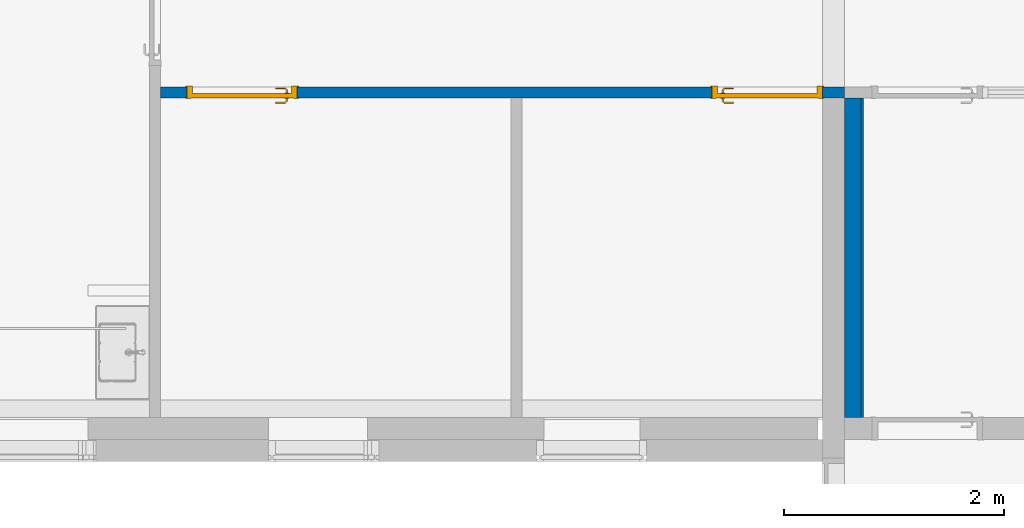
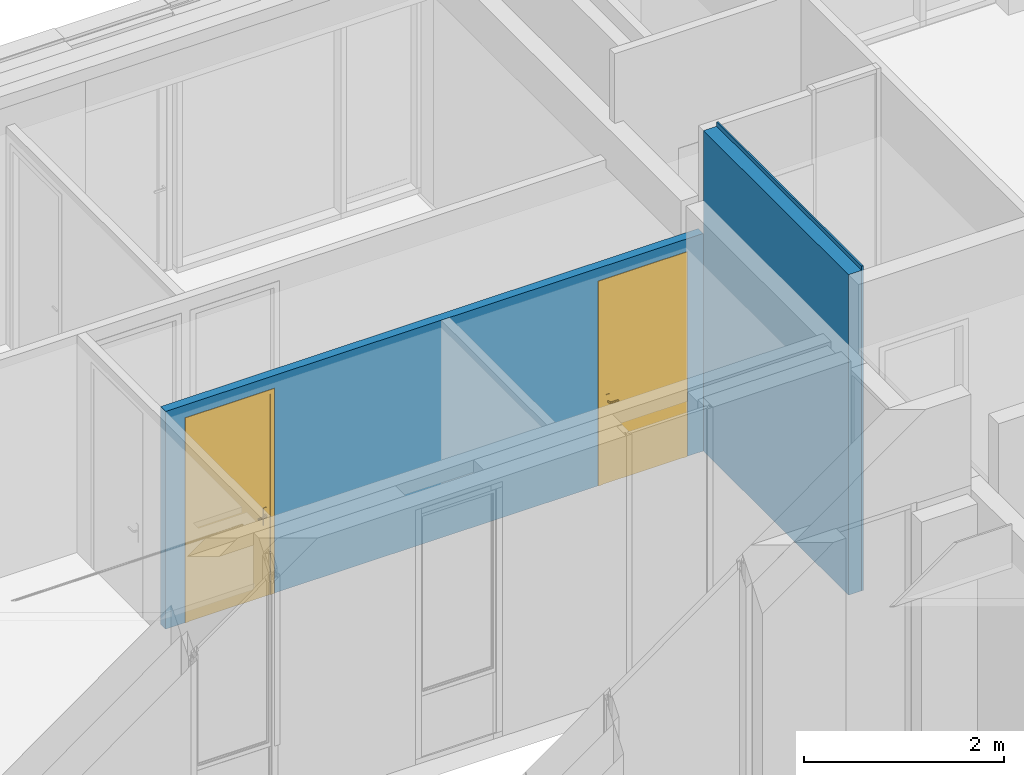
# One storey, part 135 of 240: 3 walls, 2 doors, 2 openings.
"""IFC2X3 building model written with IfcOpenShell, lengths in centimetres."""

from ifc_helpers import new_model, entity, si_unit, converted_unit, derived_unit, direction, frame, frame_2d, origin, place, context, subcontext, project, spatial, rectangle, extrude, faceted_brep, source, transform, mapped, material, material_list, layer, layer_set, layer_usage, type_object, type_shapes, element, fill, save


model = new_model("IFC2X3")

# Units and contexts
model_context = context("Model", 3, precision=0.001, world=origin(), true_north=direction((6.12303176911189e-17, 1.0)))
body_context = subcontext(model_context, "Body", "Model", "MODEL_VIEW")
ifc_project = project(units=[si_unit("LENGTHUNIT", "METRE", prefix="CENTI"), si_unit("AREAUNIT", "SQUARE_METRE"), si_unit("VOLUMEUNIT", "CUBIC_METRE"), converted_unit("PLANEANGLEUNIT", "DEGREE", entity("IfcRatioMeasure", 0.0174532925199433), si_unit("PLANEANGLEUNIT", "RADIAN"), dimensions=[0, 0, 0, 0, 0, 0, 0]), si_unit("MASSUNIT", "GRAM", prefix="KILO"), derived_unit("MASSDENSITYUNIT", [(si_unit("MASSUNIT", "GRAM", prefix="KILO"), 1), (si_unit("LENGTHUNIT", "METRE"), -3)]), si_unit("TIMEUNIT", "SECOND"), si_unit("FREQUENCYUNIT", "HERTZ"), si_unit("THERMODYNAMICTEMPERATUREUNIT", "DEGREE_CELSIUS"), derived_unit("THERMALTRANSMITTANCEUNIT", [(si_unit("MASSUNIT", "GRAM", prefix="KILO"), 1), (si_unit("THERMODYNAMICTEMPERATUREUNIT", "KELVIN"), -1), (si_unit("TIMEUNIT", "SECOND"), -3)]), derived_unit("VOLUMETRICFLOWRATEUNIT", [(si_unit("LENGTHUNIT", "METRE"), 3), (si_unit("TIMEUNIT", "SECOND"), -1)]), si_unit("ELECTRICCURRENTUNIT", "AMPERE"), si_unit("ELECTRICVOLTAGEUNIT", "VOLT"), si_unit("POWERUNIT", "WATT"), si_unit("FORCEUNIT", "NEWTON", prefix="KILO"), si_unit("ILLUMINANCEUNIT", "LUX"), si_unit("LUMINOUSFLUXUNIT", "LUMEN"), si_unit("LUMINOUSINTENSITYUNIT", "CANDELA"), derived_unit("USERDEFINED", [(si_unit("MASSUNIT", "GRAM", prefix="KILO"), -1), (si_unit("LENGTHUNIT", "METRE"), -2), (si_unit("TIMEUNIT", "SECOND"), 3), (si_unit("LUMINOUSFLUXUNIT", "LUMEN"), 1)]), derived_unit("LINEARVELOCITYUNIT", [(si_unit("LENGTHUNIT", "METRE"), 1), (si_unit("TIMEUNIT", "SECOND"), -1)]), si_unit("PRESSUREUNIT", "PASCAL"), derived_unit("USERDEFINED", [(si_unit("LENGTHUNIT", "METRE"), -2), (si_unit("MASSUNIT", "GRAM", prefix="KILO"), 1), (si_unit("TIMEUNIT", "SECOND"), -2)])], contexts=[model_context])

# Site, building, storey
site_placement = place(None, frame((-2781.94577612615, 7442.24238424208, 0.0)))
site = spatial("IfcSite", under=ifc_project, at=site_placement, Name="Default", CompositionType="ELEMENT")
building_placement = place(site_placement, origin())
building = spatial("IfcBuilding", under=site, at=building_placement, CompositionType="ELEMENT")
storey_placement = place(building_placement, origin())
storey = spatial("IfcBuildingStorey", under=building, at=storey_placement, Name="N00 - COO", CompositionType="ELEMENT", Elevation=0.0)

# Wall
ifc_material_1 = material(Name="00 - Isolant")
ifc_layer_1 = layer(ifc_material_1, 14.0)
ifc_material_2 = material(Name="01 - Enduit/Plâtre")
ifc_layer_2 = layer(ifc_material_2, 1.3)
ifc_layer_set_1 = layer_set([ifc_layer_1, ifc_layer_2], Name="Mur de base:04 - Parement -  isolant 14 cm + BA13")
ifc_layer_usage_1 = layer_usage(ifc_layer_set_1, "AXIS2", "POSITIVE", -7.65)
wall_type_1 = type_object("IfcWallType", Name="Mur de base:04 - Parement -  isolant 14 cm + BA13", PredefinedType="STANDARD", material=ifc_layer_set_1)
wall_1_placement = place(building_placement, frame((-8401.84987766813, -520.0, 0.0), z_axis=(0.0, 0.0, 1.0), x_axis=(0.0, -1.0, 0.0)))
element("IfcWallStandardCase", 1, at=wall_1_placement, inside=storey, type_object=wall_type_1, material=ifc_layer_usage_1, Name="Mur de base:04 - Parement -  isolant 14 cm + BA13", ObjectType="Mur de base:04 - Parement -  isolant 14 cm + BA13", context=body_context, shape_type="SweptSolid", body=[
    extrude(rectangle(XDim=290.048500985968, YDim=15.3000000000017, at=frame_2d((145.024250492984, 0.0), x_axis=(-1.0, 0.0))), origin(), (0.0, 0.0, 1.0), 391.0),
])

# Wall, openings, doors
ifc_layer_3 = layer(ifc_material_2, 1.3)
ifc_layer_4 = layer(ifc_material_1, 7.4)
ifc_layer_5 = layer(ifc_material_2, 1.3)
ifc_layer_set_2 = layer_set([ifc_layer_3, ifc_layer_4, ifc_layer_5], Name="Mur de base:06 - cloisons - Ba13 10cm")
ifc_layer_usage_2 = layer_usage(ifc_layer_set_2, "AXIS2", "NEGATIVE", 5.0)
wall_type_2 = type_object("IfcWallType", Name="Mur de base:06 - cloisons - Ba13 10cm", PredefinedType="STANDARD", material=ifc_layer_set_2)
wall_2_placement = place(building_placement, frame((-8409.49987766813, -515.0, 0.0), z_axis=(0.0, 0.0, 1.0), x_axis=(-1.0, 0.0, 0.0)))
wall_2 = element("IfcWallStandardCase", 2, at=wall_2_placement, inside=storey, type_object=wall_type_2, material=ifc_layer_usage_2, Name="Mur de base:06 - cloisons - Ba13 10cm", ObjectType="Mur de base:06 - cloisons - Ba13 10cm", context=body_context, shape_type="SweptSolid", body=[
    extrude(rectangle(XDim=620.499999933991, YDim=10.0000000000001, at=frame_2d((310.249999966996, -3.33066907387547e-14), x_axis=(-1.0, 0.0))), origin(), (0.0, 0.0, 1.0), 265.5),
])
opening_1_placement = place(wall_2_placement, frame((496.499999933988, -5.0, 0.0)))
opening_1 = element("IfcOpeningElement", 3, at=opening_1_placement, cuts=wall_2, Name="Int. Simple:PP simple (0.93m x 2.50m):1", ObjectType="Opening", context=body_context, shape_type="SweptSolid", body=[
    extrude(rectangle(XDim=248.500000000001, YDim=99.9999999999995, at=frame_2d((124.250000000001, 49.9999999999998), x_axis=(1.0, 0.0))), frame((0.0, 0.0, 0.0), z_axis=(0.0, 1.0, 0.0), x_axis=(0.0, 0.0, 1.0)), (0.0, 0.0, 1.0), 10.0),
])
opening_2_placement = place(wall_2_placement, frame((20.0, -5.0, 0.0)))
opening_2 = element("IfcOpeningElement", 4, at=opening_2_placement, cuts=wall_2, Name="Int. Simple:PP simple (0.93m x 2.50m):1", ObjectType="Opening", context=body_context, shape_type="SweptSolid", body=[
    extrude(rectangle(XDim=248.500000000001, YDim=99.9999999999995, at=frame_2d((124.250000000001, 50.0), x_axis=(1.0, 0.0))), frame((0.0, 0.0, 0.0), z_axis=(0.0, 1.0, 0.0), x_axis=(0.0, 0.0, 1.0)), (0.0, 0.0, 1.0), 10.0),
])
ifc_material_3 = material(Name="Finition Peinture - Blanc satiné")
ifc_material_4 = material(Name="Bois - Panneau de porte")
ifc_material_5 = material(Name="Bois - Cadre de porte")
ifc_material_list_1 = material_list([ifc_material_3, ifc_material_4, ifc_material_5])
ifc_material_list_2 = material_list([ifc_material_3, ifc_material_4, ifc_material_5])
door_style_1 = type_object("IfcDoorStyle", Name="PP simple (0.93m x 2.50m)", ConstructionType="NOTDEFINED", OperationType="SINGLE_SWING_LEFT", ParameterTakesPrecedence=False, Sizeable=False, material=ifc_material_list_2)
shared_shape_1 = source(origin(), body_context, "Body", "Brep", [
    faceted_brep([(10.5352761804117, -0.500000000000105, 86.6003983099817), (11.5000000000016, -0.500000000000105, 87.0), (11.5000000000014, -0.500000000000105, 108.0), (10.5352761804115, -0.500000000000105, 108.399601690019), (9.50000000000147, -0.500000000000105, 108.535898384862), (8.46472381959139, -0.500000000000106, 108.399601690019), (7.50000000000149, -0.500000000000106, 108.0), (7.50000000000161, -0.500000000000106, 87.0), (8.46472381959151, -0.500000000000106, 86.6003983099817), (9.50000000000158, -0.500000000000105, 86.464101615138), (10.5352761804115, 0.0, 108.399601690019), (11.5000000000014, 0.0, 108.0), (11.5000000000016, 0.0, 87.0), (10.5352761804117, 0.0, 86.6003983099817), (9.50000000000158, 0.0, 86.464101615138), (8.46472381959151, 0.0, 86.6003983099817), (7.50000000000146, 0.0, 87.0), (7.50000000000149, 0.0, 108.0), (8.46472381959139, 0.0, 108.399601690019), (9.50000000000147, 0.0, 108.535898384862)], [[[0, 1, 2, 3, 4, 5, 6, 7, 8, 9]], [[10, 11, 12, 13, 14, 15, 16, 17, 18, 19]], [[16, 15, 8, 7]], [[8, 15, 14, 9]], [[14, 13, 0, 9]], [[13, 12, 1, 0]], [[2, 1, 12, 11]], [[11, 10, 3, 2]], [[3, 10, 19, 4]], [[19, 18, 5, 4]], [[18, 17, 6, 5]], [[7, 6, 17, 16]]]),
    faceted_brep([(10.5352761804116, 4.0, 86.6003983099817), (11.5000000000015, 4.0, 87.0), (11.5000000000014, 4.0, 108.0), (10.5352761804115, 4.0, 108.399601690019), (9.50000000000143, 4.0, 108.535898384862), (8.46472381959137, 4.0, 108.399601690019), (7.50000000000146, 4.0, 108.0), (7.50000000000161, 4.0, 87.0), (8.46472381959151, 4.0, 86.6003983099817), (9.50000000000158, 4.0, 86.464101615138), (10.5352761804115, 4.49999999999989, 108.399601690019), (11.5000000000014, 4.49999999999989, 108.0), (11.5000000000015, 4.49999999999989, 87.0), (10.5352761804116, 4.49999999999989, 86.6003983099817), (9.50000000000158, 4.49999999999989, 86.464101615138), (8.46472381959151, 4.49999999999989, 86.6003983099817), (7.50000000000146, 4.49999999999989, 87.0), (7.50000000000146, 4.49999999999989, 108.0), (8.46472381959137, 4.49999999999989, 108.399601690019), (9.50000000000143, 4.49999999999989, 108.535898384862)], [[[0, 1, 2, 3, 4, 5, 6, 7, 8, 9]], [[10, 11, 12, 13, 14, 15, 16, 17, 18, 19]], [[11, 10, 3, 2]], [[3, 10, 19, 4]], [[19, 18, 5, 4]], [[18, 17, 6, 5]], [[7, 6, 17, 16]], [[16, 15, 8, 7]], [[8, 15, 14, 9]], [[14, 13, 0, 9]], [[13, 12, 1, 0]], [[2, 1, 12, 11]]]),
    faceted_brep([(9.29747013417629, -0.500000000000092, 100.778044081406), (9.70252986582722, -0.50000000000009, 100.778044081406), (10.1000000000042, -0.500000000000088, 100.699999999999), (10.1000000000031, -0.500000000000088, 99.3000000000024), (9.7025298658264, -0.50000000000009, 99.2219559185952), (9.29747013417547, -0.500000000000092, 99.221955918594), (8.8999999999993, -0.500000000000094, 99.2999999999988), (8.89999999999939, -0.500000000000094, 100.7), (8.89999999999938, -3.26509507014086, 100.7), (9.29747013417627, -3.10045754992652, 100.778044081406), (10.9023585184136, -4.70534593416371, 100.778044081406), (11.0701397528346, -4.30028620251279, 100.778044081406), (9.7025298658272, -2.93267631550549, 100.778044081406), (10.1000000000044, -2.76803879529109, 100.7), (10.1000000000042, -2.76803879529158, 99.3000000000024), (9.7025298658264, -2.93267631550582, 99.2219559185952), (11.0701397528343, -4.30028620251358, 99.2219559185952), (10.9023585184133, -4.70534593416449, 99.221955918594), (9.29747013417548, -3.10045754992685, 99.221955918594), (8.89999999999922, -3.26509507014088, 99.2999999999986), (10.7377209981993, -5.10281606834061, 100.7), (11.2347772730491, -3.90281606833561, 100.7), (11.2347772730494, -3.90281606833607, 99.3000000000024), (10.7377209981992, -5.10281606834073, 99.2999999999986), (19.5018640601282, -5.10281606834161, 99.2999999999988), (19.5018640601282, -4.70534593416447, 99.221955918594), (19.5018640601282, -4.30028620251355, 99.2219559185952), (19.5018640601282, -3.9028160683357, 99.3000000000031), (19.5018640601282, -3.90281606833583, 100.7), (19.5018640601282, -4.30028620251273, 100.778044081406), (19.5018640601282, -4.70534593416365, 100.778044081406), (19.5018640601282, -5.10281606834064, 100.699999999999), (14.7307697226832, -5.10281606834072, 100.7), (15.2860019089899, -4.5028160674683, 100.78786867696), (15.3683206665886, -3.9028160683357, 100.7), (15.3683206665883, -3.9028160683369, 99.3000000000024), (15.2860018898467, -4.50281607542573, 99.2121313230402), (14.7307700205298, -5.10281606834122, 99.2999999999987)], [[[0, 1, 2, 3, 4, 5, 6, 7]], [[8, 9, 0, 7]], [[9, 10, 11, 12, 1, 0]], [[12, 13, 2, 1]], [[3, 2, 13, 14]], [[14, 15, 4, 3]], [[15, 16, 17, 18, 5, 4]], [[18, 19, 6, 5]], [[7, 6, 19, 8]], [[20, 10, 9, 8]], [[11, 21, 13, 12]], [[14, 13, 21, 22]], [[22, 16, 15, 14]], [[17, 23, 19, 18]], [[8, 19, 23, 20]], [[24, 25, 26, 27, 28, 29, 30, 31]], [[32, 30, 33]], [[31, 30, 32]], [[10, 20, 32]], [[33, 34, 11]], [[21, 11, 34]], [[34, 29, 28]], [[30, 29, 33]], [[29, 34, 33]], [[10, 32, 33]], [[10, 33, 11]], [[22, 21, 34, 28, 27, 35]], [[35, 26, 36]], [[37, 36, 25]], [[22, 35, 16]], [[35, 27, 26]], [[24, 37, 25]], [[23, 17, 37]], [[37, 17, 36]], [[17, 16, 36]], [[16, 35, 36]], [[25, 36, 26]], [[20, 23, 37, 24, 31, 32]]]),
    faceted_brep([(9.29747013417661, 4.49999999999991, 100.778044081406), (8.89999999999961, 4.4999999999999, 100.7), (8.89999999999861, 4.4999999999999, 99.2999999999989), (9.29747013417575, 4.49999999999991, 99.221955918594), (9.70252986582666, 4.49999999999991, 99.2219559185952), (10.1000000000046, 4.49999999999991, 99.3000000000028), (10.1000000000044, 4.49999999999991, 100.7), (9.70252986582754, 4.49999999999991, 100.778044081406), (10.1000000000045, 6.7485204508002, 99.3000000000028), (10.1000000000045, 6.74852045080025, 100.7), (9.70252986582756, 6.91315797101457, 100.778044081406), (11.083890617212, 8.29451872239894, 100.778044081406), (10.916109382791, 8.69957845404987, 100.778044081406), (9.29747013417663, 7.0809392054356, 100.778044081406), (8.89999999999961, 7.24557672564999, 100.7), (8.89999999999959, 7.2455767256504, 99.2999999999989), (9.29747013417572, 7.08093920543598, 99.221955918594), (10.9161093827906, 8.69957845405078, 99.221955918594), (11.0838906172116, 8.29451872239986, 99.2219559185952), (9.70252986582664, 6.91315797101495, 99.2219559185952), (11.2485281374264, 7.89704858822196, 99.3000000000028), (11.2485281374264, 7.89704858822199, 100.7), (10.7514718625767, 9.09704858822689, 100.7), (10.7514718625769, 9.0970485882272, 99.2999999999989), (19.5045783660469, 7.89704858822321, 99.3000000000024), (19.5045783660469, 8.29451872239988, 99.2219559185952), (19.5045783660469, 8.6995784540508, 99.221955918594), (19.5045783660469, 9.09704858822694, 99.2999999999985), (19.5045783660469, 9.09704858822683, 100.7), (19.5045783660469, 8.69957845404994, 100.778044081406), (19.5045783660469, 8.29451872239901, 100.778044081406), (19.5045783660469, 7.89704858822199, 100.7), (15.3765520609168, 7.89704858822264, 99.3000000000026), (15.3765532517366, 7.89704858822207, 100.7), (15.294234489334, 8.49704858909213, 100.78786867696), (14.7445205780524, 9.09704858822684, 100.7), (14.7445204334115, 9.09704858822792, 99.2999999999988), (15.2942345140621, 8.49704858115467, 99.2121313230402)], [[[0, 1, 2, 3, 4, 5, 6, 7]], [[6, 5, 8, 9]], [[9, 10, 7, 6]], [[10, 11, 12, 13, 0, 7]], [[13, 14, 1, 0]], [[2, 1, 14, 15]], [[15, 16, 3, 2]], [[16, 17, 18, 19, 4, 3]], [[19, 8, 5, 4]], [[9, 8, 20, 21]], [[21, 11, 10, 9]], [[12, 22, 14, 13]], [[15, 14, 22, 23]], [[23, 17, 16, 15]], [[18, 20, 8, 19]], [[24, 25, 26, 27, 28, 29, 30, 31]], [[21, 20, 32, 24, 31, 33]], [[33, 30, 34]], [[35, 34, 29]], [[21, 33, 11]], [[33, 31, 30]], [[28, 35, 29]], [[22, 12, 35]], [[35, 12, 34]], [[12, 11, 34]], [[11, 33, 34]], [[29, 34, 30]], [[22, 35, 28, 27, 36, 23]], [[36, 26, 37]], [[27, 26, 36]], [[17, 23, 36]], [[37, 32, 18]], [[20, 18, 32]], [[32, 25, 24]], [[26, 25, 37]], [[25, 32, 37]], [[17, 36, 37]], [[17, 37, 18]]]),
    faceted_brep([(3.50000000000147, 4.0, 245.0), (96.5000000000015, 4.0, 245.0), (96.5000000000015, 4.0, 0.0), (3.50000000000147, 4.0, 0.0), (3.50000000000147, 0.0, 245.0), (3.50000000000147, 0.0, 0.0), (96.5000000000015, 0.0, 0.0), (96.5000000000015, 0.0, 245.0)], [[[0, 1, 2, 3]], [[4, 5, 6, 7]], [[1, 0, 4, 7]], [[2, 1, 7, 6]], [[3, 2, 6, 5]], [[0, 3, 5, 4]]]),
    faceted_brep([(0.0, 10.0, 0.0), (-1.50000000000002, 10.0, 0.0), (-1.50000000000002, 10.5000000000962, 0.0), (5.0, 10.5000000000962, 0.0), (5.0, 4.0, 0.0), (3.50000000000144, 4.0, 0.0), (3.50000000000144, -0.500000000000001, 0.0), (-1.50000000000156, -0.500000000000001, 0.0), (-1.50000000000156, 0.0, 0.0), (0.0, 0.0, 0.0), (0.0, 0.0, 248.500000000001), (0.0, 10.0, 248.500000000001), (100.0, 10.0, 248.500000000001), (100.0, 10.0, 0.0), (101.5, 10.0, 0.0), (101.5, 10.0, 250.0), (-1.50000000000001, 10.0, 250.0), (5.0, 10.5000000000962, 243.5), (5.0, 4.0, 243.5), (95.0, 4.0, 243.5), (95.0, 4.0, 0.0), (96.499999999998, 4.0, 0.0), (96.499999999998, 4.0, 245.0), (3.50000000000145, 4.0, 245.0), (100.0, 0.0, 248.500000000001), (100.0, 0.0, 0.0), (101.500000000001, 0.0, 0.0), (101.500000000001, -0.500000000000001, 0.0), (96.499999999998, -0.500000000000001, 0.0), (95.0, 10.5000000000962, 0.0), (101.5, 10.5000000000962, 0.0), (95.0, 10.5000000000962, 243.5), (3.50000000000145, -0.500000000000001, 245.0), (96.499999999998, -0.500000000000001, 245.0), (101.500000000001, -0.500000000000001, 250.0), (-1.50000000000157, -0.500000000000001, 250.0), (-1.50000000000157, 0.0, 250.0), (101.500000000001, 0.0, 250.0), (-1.50000000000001, 10.5000000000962, 250.0), (101.5, 10.5000000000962, 250.0)], [[[0, 1, 2, 3, 4, 5, 6, 7, 8, 9]], [[0, 9, 10, 11]], [[1, 0, 11, 12, 13, 14, 15, 16]], [[3, 17, 18, 4]], [[5, 4, 18, 19, 20, 21, 22, 23]], [[12, 24, 25, 13]], [[13, 25, 26, 27, 28, 21, 20, 29, 30, 14]], [[19, 31, 29, 20]], [[11, 10, 24, 12]], [[18, 17, 31, 19]], [[5, 23, 32, 6]], [[7, 6, 32, 33, 28, 27, 34, 35]], [[8, 7, 35, 36]], [[9, 8, 36, 37, 26, 25, 24, 10]], [[2, 1, 16, 38]], [[3, 2, 38, 39, 30, 29, 31, 17]], [[33, 22, 21, 28]], [[37, 34, 27, 26]], [[39, 15, 14, 30]], [[32, 23, 22, 33]], [[36, 35, 34, 37]], [[38, 16, 15, 39]]]),
])
type_shapes(door_style_1, [shared_shape_1])
door_1_placement = place(opening_2_placement, frame((100.0, 10.0, 0.0), z_axis=(0.0, 0.0, 1.0), x_axis=(-1.0, 0.0, 0.0)))
door_1 = element("IfcDoor", 5, at=door_1_placement, inside=storey, type_object=door_style_1, material=ifc_material_list_1, Name="Int. Simple:PP simple (0.93m x 2.50m)", ObjectType="Int. Simple:PP simple (0.93m x 2.50m)", OverallHeight=248.500000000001, OverallWidth=99.9999999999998, context=body_context, shape_type="MappedRepresentation", body=[
    mapped(shared_shape_1, transform((0.0, 0.0, 0.0), scale=1.0)),
])
fill(opening_2, door_1)
ifc_material_list_3 = material_list([ifc_material_3, ifc_material_4, ifc_material_5])
ifc_material_list_4 = material_list([ifc_material_3, ifc_material_4, ifc_material_5])
door_style_2 = type_object("IfcDoorStyle", Name="PP simple (0.93m x 2.50m)", ConstructionType="NOTDEFINED", OperationType="SINGLE_SWING_RIGHT", ParameterTakesPrecedence=False, Sizeable=False, material=ifc_material_list_4)
shared_shape_2 = source(origin(), body_context, "Body", "Brep", [
    faceted_brep([(99.5000000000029, -0.500000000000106, 87.0), (99.5000000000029, -0.500000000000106, 108.0), (98.535276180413, -0.500000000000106, 108.399601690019), (97.5000000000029, -0.500000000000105, 108.535898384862), (96.4647238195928, -0.500000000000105, 108.399601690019), (95.500000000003, -0.500000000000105, 108.0), (95.5000000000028, -0.500000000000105, 87.0), (96.4647238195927, -0.500000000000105, 86.6003983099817), (97.5000000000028, -0.500000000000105, 86.464101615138), (98.5352761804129, -0.500000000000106, 86.6003983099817), (99.5000000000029, 0.0, 108.0), (99.5000000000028, 0.0, 87.0), (98.5352761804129, 0.0, 86.6003983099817), (97.5000000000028, 0.0, 86.464101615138), (96.4647238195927, 0.0, 86.6003983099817), (95.5000000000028, 0.0, 87.0), (95.5000000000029, 0.0, 108.0), (96.4647238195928, 0.0, 108.399601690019), (97.5000000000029, 0.0, 108.535898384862), (98.535276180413, 0.0, 108.399601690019)], [[[0, 1, 2, 3, 4, 5, 6, 7, 8, 9]], [[10, 11, 12, 13, 14, 15, 16, 17, 18, 19]], [[9, 12, 11, 0]], [[8, 13, 12, 9]], [[7, 14, 13, 8]], [[7, 6, 15, 14]], [[15, 6, 5, 16]], [[4, 17, 16, 5]], [[3, 18, 17, 4]], [[2, 19, 18, 3]], [[2, 1, 10, 19]], [[11, 10, 1, 0]]]),
    faceted_brep([(99.5000000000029, 4.0, 87.0), (99.5000000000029, 4.0, 108.0), (98.535276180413, 4.0, 108.399601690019), (97.5000000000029, 4.0, 108.535898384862), (96.4647238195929, 4.0, 108.399601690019), (95.500000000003, 4.0, 108.0), (95.5000000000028, 4.0, 87.0), (96.4647238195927, 4.0, 86.6003983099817), (97.5000000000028, 4.0, 86.464101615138), (98.5352761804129, 4.0, 86.6003983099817), (97.5000000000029, 4.49999999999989, 108.535898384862), (98.535276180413, 4.49999999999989, 108.399601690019), (99.5000000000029, 4.49999999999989, 108.0), (99.5000000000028, 4.49999999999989, 87.0), (98.5352761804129, 4.49999999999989, 86.6003983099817), (97.5000000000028, 4.49999999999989, 86.464101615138), (96.4647238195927, 4.49999999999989, 86.6003983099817), (95.5000000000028, 4.49999999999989, 87.0), (95.500000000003, 4.49999999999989, 108.0), (96.4647238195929, 4.49999999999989, 108.399601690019)], [[[0, 1, 2, 3, 4, 5, 6, 7, 8, 9]], [[10, 11, 12, 13, 14, 15, 16, 17, 18, 19]], [[4, 19, 18, 5]], [[3, 10, 19, 4]], [[2, 11, 10, 3]], [[2, 1, 12, 11]], [[13, 12, 1, 0]], [[9, 14, 13, 0]], [[8, 15, 14, 9]], [[7, 16, 15, 8]], [[7, 6, 17, 16]], [[17, 6, 5, 18]]]),
    faceted_brep([(97.2974701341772, -0.50000000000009, 100.778044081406), (97.7025298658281, -0.500000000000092, 100.778044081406), (98.1000000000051, -0.500000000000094, 100.699999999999), (98.100000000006, -0.500000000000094, 99.2999999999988), (97.7025298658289, -0.500000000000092, 99.221955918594), (97.297470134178, -0.50000000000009, 99.2219559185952), (96.9000000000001, -0.500000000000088, 99.3000000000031), (96.9000000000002, -0.500000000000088, 100.7), (97.7025298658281, -3.10045754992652, 100.778044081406), (98.1000000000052, -3.26509507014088, 100.7), (97.2974701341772, -2.93267631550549, 100.778044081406), (95.9298602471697, -4.30028620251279, 100.778044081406), (96.0976414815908, -4.70534593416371, 100.778044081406), (96.9000000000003, -2.76803879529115, 100.7), (96.9000000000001, -2.76803879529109, 99.3000000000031), (97.297470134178, -2.93267631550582, 99.2219559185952), (97.7025298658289, -3.10045754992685, 99.221955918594), (96.0976414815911, -4.70534593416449, 99.221955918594), (95.9298602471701, -4.30028620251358, 99.2219559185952), (98.100000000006, -3.26509507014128, 99.2999999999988), (96.2622790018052, -5.10281606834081, 100.7), (95.7652227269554, -3.90281606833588, 100.7), (95.7652227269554, -3.90281606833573, 99.3000000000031), (96.2622790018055, -5.10281606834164, 99.2999999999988), (87.4981359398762, -5.10281606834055, 100.7), (87.4981359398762, -4.70534593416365, 100.778044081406), (87.4981359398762, -4.30028620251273, 100.778044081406), (87.4981359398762, -3.90281606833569, 100.699999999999), (87.4981359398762, -3.90281606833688, 99.3000000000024), (87.4981359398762, -4.30028620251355, 99.2219559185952), (87.4981359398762, -4.70534593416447, 99.221955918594), (87.4981359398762, -5.10281606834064, 99.2999999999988), (91.7139980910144, -4.5028160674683, 100.78786867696), (92.2692302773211, -5.1028160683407, 100.7), (91.6316793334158, -3.9028160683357, 100.7), (91.631679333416, -3.9028160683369, 99.3000000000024), (91.7139981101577, -4.50281607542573, 99.2121313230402), (92.2692310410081, -5.10281606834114, 99.2999999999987)], [[[0, 1, 2, 3, 4, 5, 6, 7]], [[2, 1, 8, 9]], [[1, 0, 10, 11, 12, 8]], [[0, 7, 13, 10]], [[14, 13, 7, 6]], [[5, 15, 14, 6]], [[5, 4, 16, 17, 18, 15]], [[3, 19, 16, 4]], [[9, 19, 3, 2]], [[9, 8, 12, 20]], [[10, 13, 21, 11]], [[22, 21, 13, 14]], [[14, 15, 18, 22]], [[16, 19, 23, 17]], [[20, 23, 19, 9]], [[24, 25, 26, 27, 28, 29, 30, 31]], [[32, 25, 33]], [[33, 25, 24]], [[33, 20, 12]], [[11, 34, 32]], [[34, 11, 21]], [[27, 26, 34]], [[32, 26, 25]], [[32, 34, 26]], [[32, 33, 12]], [[11, 32, 12]], [[21, 22, 35, 28, 27, 34]], [[36, 29, 35]], [[30, 36, 37]], [[18, 35, 22]], [[29, 28, 35]], [[30, 37, 31]], [[37, 17, 23]], [[36, 17, 37]], [[36, 18, 17]], [[36, 35, 18]], [[29, 36, 30]], [[23, 20, 33, 24, 31, 37]]]),
    faceted_brep([(97.2974701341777, 4.49999999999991, 99.2219559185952), (97.7025298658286, 4.49999999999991, 99.221955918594), (98.1000000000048, 4.4999999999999, 99.2999999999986), (98.1000000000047, 4.4999999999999, 100.7), (97.7025298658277, 4.49999999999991, 100.778044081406), (97.2974701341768, 4.49999999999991, 100.778044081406), (96.8999999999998, 4.49999999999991, 100.7), (96.900000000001, 4.49999999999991, 99.3000000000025), (96.8999999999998, 6.7485204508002, 100.7), (96.8999999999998, 6.74852045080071, 99.3000000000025), (97.2974701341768, 6.91315797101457, 100.778044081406), (97.7025298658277, 7.0809392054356, 100.778044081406), (96.0838906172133, 8.69957845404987, 100.778044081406), (95.9161093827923, 8.29451872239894, 100.778044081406), (98.1000000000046, 7.24557672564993, 100.7), (98.1000000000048, 7.24557672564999, 99.2999999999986), (97.7025298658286, 7.08093920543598, 99.221955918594), (97.2974701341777, 6.91315797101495, 99.2219559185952), (95.9161093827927, 8.29451872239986, 99.2219559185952), (96.0838906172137, 8.69957845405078, 99.221955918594), (95.751471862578, 7.89704858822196, 100.7), (95.7514718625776, 7.89704858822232, 99.3000000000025), (96.2485281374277, 9.09704858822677, 100.7), (96.2485281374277, 9.09704858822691, 99.2999999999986), (87.4954216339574, 8.29451872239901, 100.778044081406), (87.4954216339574, 8.69957845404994, 100.778044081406), (87.4954216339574, 9.09704858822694, 100.7), (87.4954216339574, 9.09704858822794, 99.2999999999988), (87.4954216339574, 8.6995784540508, 99.221955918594), (87.4954216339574, 8.29451872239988, 99.2219559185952), (87.4954216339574, 7.89704858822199, 99.3000000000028), (87.4954216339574, 7.89704858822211, 100.7), (91.6234467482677, 7.89704858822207, 100.7), (91.6234479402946, 7.89704858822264, 99.3000000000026), (91.7057655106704, 8.49704858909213, 100.78786867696), (92.255479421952, 9.09704858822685, 100.7), (92.2554795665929, 9.09704858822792, 99.2999999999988), (91.7057654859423, 8.49704858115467, 99.2121313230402)], [[[0, 1, 2, 3, 4, 5, 6, 7]], [[8, 9, 7, 6]], [[5, 10, 8, 6]], [[5, 4, 11, 12, 13, 10]], [[3, 14, 11, 4]], [[14, 3, 2, 15]], [[2, 1, 16, 15]], [[1, 0, 17, 18, 19, 16]], [[0, 7, 9, 17]], [[20, 21, 9, 8]], [[8, 10, 13, 20]], [[14, 22, 12, 11]], [[23, 22, 14, 15]], [[15, 16, 19, 23]], [[17, 9, 21, 18]], [[24, 25, 26, 27, 28, 29, 30, 31]], [[21, 20, 32, 31, 30, 33]], [[34, 24, 32]], [[25, 34, 35]], [[13, 32, 20]], [[24, 31, 32]], [[25, 35, 26]], [[35, 12, 22]], [[34, 12, 35]], [[34, 13, 12]], [[34, 32, 13]], [[24, 34, 25]], [[22, 23, 36, 27, 26, 35]], [[37, 28, 36]], [[36, 28, 27]], [[36, 23, 19]], [[18, 33, 37]], [[33, 18, 21]], [[30, 29, 33]], [[37, 29, 28]], [[37, 33, 29]], [[37, 36, 19]], [[18, 37, 19]]]),
    faceted_brep([(103.500000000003, 4.0, 245.0), (103.500000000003, 4.0, 0.0), (10.5000000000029, 4.0, 0.0), (10.5000000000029, 4.0, 245.0), (103.500000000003, 0.0, 245.0), (10.5000000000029, 0.0, 245.0), (10.5000000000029, 0.0, 0.0), (103.500000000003, 0.0, 0.0)], [[[0, 1, 2, 3]], [[4, 5, 6, 7]], [[3, 5, 4, 0]], [[2, 6, 5, 3]], [[1, 7, 6, 2]], [[0, 4, 7, 1]]]),
    faceted_brep([(107.0, 10.0, 0.0), (107.0, 0.0, 0.0), (108.500000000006, 0.0, 0.0), (108.500000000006, -0.500000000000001, 0.0), (103.500000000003, -0.500000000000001, 0.0), (103.500000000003, 4.0, 0.0), (102.0, 4.0, 0.0), (102.0, 10.5000000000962, 0.0), (108.500000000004, 10.5000000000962, 0.0), (108.500000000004, 10.0, 0.0), (107.0, 10.0, 248.500000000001), (107.0, 0.0, 248.500000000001), (108.500000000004, 10.0, 250.0), (5.50000000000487, 10.0, 250.0), (5.50000000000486, 10.0, 0.0), (7.0, 10.0, 0.0), (7.0, 10.0, 248.500000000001), (102.0, 4.0, 243.5), (102.0, 10.5000000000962, 243.5), (103.500000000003, 4.0, 245.0), (10.5000000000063, 4.0, 245.0), (10.5000000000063, 4.0, 0.0), (12.0, 4.0, 0.0), (12.0, 4.0, 243.5), (7.0, 0.0, 0.0), (7.0, 0.0, 248.500000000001), (5.50000000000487, 10.5000000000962, 0.0), (12.0, 10.5000000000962, 0.0), (10.5000000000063, -0.500000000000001, 0.0), (5.5000000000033, -0.500000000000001, 0.0), (5.5000000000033, 0.0, 0.0), (12.0, 10.5000000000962, 243.5), (103.500000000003, -0.500000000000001, 245.0), (108.500000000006, -0.500000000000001, 250.0), (5.5000000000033, -0.500000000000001, 250.0), (10.5000000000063, -0.500000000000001, 245.0), (108.500000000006, 0.0, 250.0), (5.50000000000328, 0.0, 250.0), (108.500000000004, 10.5000000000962, 250.0), (5.50000000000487, 10.5000000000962, 250.0)], [[[0, 1, 2, 3, 4, 5, 6, 7, 8, 9]], [[0, 10, 11, 1]], [[9, 12, 13, 14, 15, 16, 10, 0]], [[7, 6, 17, 18]], [[5, 19, 20, 21, 22, 23, 17, 6]], [[16, 15, 24, 25]], [[15, 14, 26, 27, 22, 21, 28, 29, 30, 24]], [[23, 22, 27, 31]], [[10, 16, 25, 11]], [[17, 23, 31, 18]], [[5, 4, 32, 19]], [[3, 33, 34, 29, 28, 35, 32, 4]], [[2, 36, 33, 3]], [[1, 11, 25, 24, 30, 37, 36, 2]], [[8, 38, 12, 9]], [[7, 18, 31, 27, 26, 39, 38, 8]], [[35, 28, 21, 20]], [[37, 30, 29, 34]], [[39, 26, 14, 13]], [[32, 35, 20, 19]], [[36, 37, 34, 33]], [[38, 39, 13, 12]]]),
])
type_shapes(door_style_2, [shared_shape_2])
door_2_placement = place(opening_1_placement, frame((107.0, 10.0, 0.0), z_axis=(0.0, 0.0, 1.0), x_axis=(-1.0, 0.0, 0.0)))
door_2 = element("IfcDoor", 6, at=door_2_placement, inside=storey, type_object=door_style_2, material=ifc_material_list_3, Name="Int. Simple:PP simple (0.93m x 2.50m)", ObjectType="Int. Simple:PP simple (0.93m x 2.50m)", OverallHeight=248.500000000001, OverallWidth=99.9999999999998, context=body_context, shape_type="MappedRepresentation", body=[
    mapped(shared_shape_2, transform((0.0, 0.0, 0.0), scale=1.0)),
])
fill(opening_1, door_2)

# Wall
ifc_material_6 = material(Name="Pin")
ifc_layer_6 = layer(ifc_material_6, 2.0)
ifc_layer_set_3 = layer_set([ifc_layer_6], Name="Mur de base:06 - habillage bois collée 2cm")
ifc_layer_usage_3 = layer_usage(ifc_layer_set_3, "AXIS2", "NEGATIVE", 1.0)
wall_type_3 = type_object("IfcWallType", Name="Mur de base:06 - habillage bois collée 2cm", PredefinedType="STANDARD", material=ifc_layer_set_3)
wall_3_placement = place(building_placement, frame((-8393.19987766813, -520.048500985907, 0.0), z_axis=(0.0, 0.0, 1.0), x_axis=(0.0, -1.0, 0.0)))
element("IfcWallStandardCase", 7, at=wall_3_placement, inside=storey, type_object=wall_type_3, material=ifc_layer_usage_3, Name="Mur de base:06 - habillage bois collée 2cm", ObjectType="Mur de base:06 - habillage bois collée 2cm", context=body_context, shape_type="SweptSolid", body=[
    extrude(rectangle(XDim=290.0, YDim=1.99999999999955, at=frame_2d((145.0, 0.0), x_axis=(-1.0, 0.0))), origin(), (0.0, 0.0, 1.0), 396.0),
])

save(model, "model.ifc")
